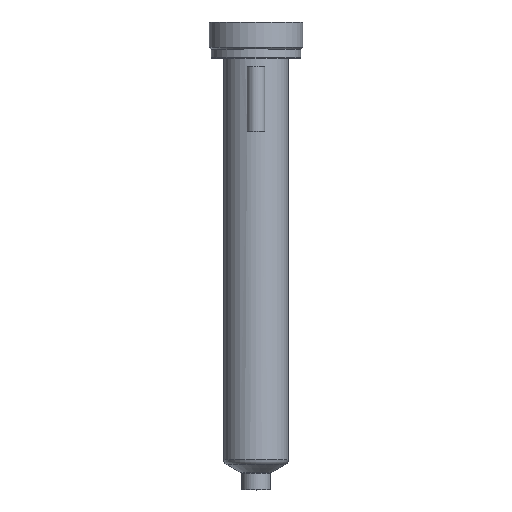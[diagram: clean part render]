
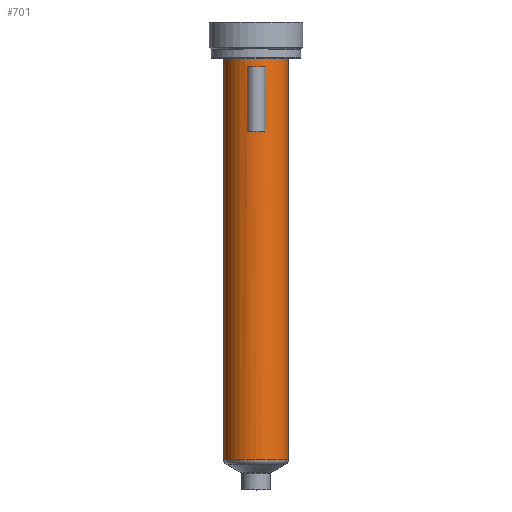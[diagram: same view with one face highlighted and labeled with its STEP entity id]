
A CAD part, top view. The second image highlights one B-rep face of the part: STEP entity #701.
In plain terms, the highlighted cylindrical face has radius 9 mm (diameter 18 mm), a partial arc.
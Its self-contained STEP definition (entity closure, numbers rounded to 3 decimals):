
#193=DIRECTION('',(0.,-1.,0.));
#194=VECTOR('',#193,111.544);
#195=CARTESIAN_POINT('',(9.,0.,0.));
#196=LINE('',#195,#194);
#197=CARTESIAN_POINT('',(0.,-111.544,0.));
#198=DIRECTION('',(0.,1.,0.));
#199=DIRECTION('',(-1.,0.,0.));
#200=AXIS2_PLACEMENT_3D('',#197,#198,#199);
#202=DIRECTION('',(0.,1.,0.));
#203=VECTOR('',#202,111.544);
#204=CARTESIAN_POINT('',(-9.,-111.544,0.));
#205=LINE('',#204,#203);
#206=CARTESIAN_POINT('',(0.,0.,0.));
#207=DIRECTION('',(0.,1.,0.));
#208=DIRECTION('',(-1.,0.,0.));
#209=AXIS2_PLACEMENT_3D('',#206,#207,#208);
#211=DIRECTION('',(0.,-1.,0.));
#212=VECTOR('',#211,18.);
#213=CARTESIAN_POINT('',(-2.5,-2.5,8.646));
#214=LINE('',#213,#212);
#215=DIRECTION('',(0.,1.,0.));
#216=VECTOR('',#215,18.);
#217=CARTESIAN_POINT('',(2.5,-20.5,8.646));
#218=LINE('',#217,#216);
#299=CARTESIAN_POINT('',(0.,-2.5,0.));
#300=DIRECTION('',(0.,-1.,0.));
#301=DIRECTION('',(0.278,0.,0.961));
#302=AXIS2_PLACEMENT_3D('',#299,#300,#301);
#317=CARTESIAN_POINT('',(0.,-20.5,0.));
#318=DIRECTION('',(0.,1.,0.));
#319=DIRECTION('',(-0.278,0.,0.961));
#320=AXIS2_PLACEMENT_3D('',#317,#318,#319);
#396=CARTESIAN_POINT('',(-9.,0.,0.));
#397=CARTESIAN_POINT('',(9.,0.,0.));
#398=VERTEX_POINT('',#396);
#399=VERTEX_POINT('',#397);
#408=CARTESIAN_POINT('',(-2.5,-2.5,8.646));
#409=VERTEX_POINT('',#408);
#410=CARTESIAN_POINT('',(2.5,-2.5,8.646));
#411=VERTEX_POINT('',#410);
#448=CARTESIAN_POINT('',(9.,-111.544,0.));
#449=VERTEX_POINT('',#448);
#458=CARTESIAN_POINT('',(-9.,-111.544,0.));
#459=VERTEX_POINT('',#458);
#460=CARTESIAN_POINT('',(-2.5,-20.5,8.646));
#461=CARTESIAN_POINT('',(2.5,-20.5,8.646));
#462=VERTEX_POINT('',#460);
#463=VERTEX_POINT('',#461);
#679=CARTESIAN_POINT('',(0.,11.15,0.));
#680=DIRECTION('',(0.,-1.,0.));
#681=DIRECTION('',(-1.,0.,0.));
#682=AXIS2_PLACEMENT_3D('',#679,#680,#681);
#683=CYLINDRICAL_SURFACE('',#682,9.);
#684=ORIENTED_EDGE('',*,*,#673,.T.);
#686=ORIENTED_EDGE('',*,*,#685,.F.);
#687=ORIENTED_EDGE('',*,*,#669,.T.);
#688=ORIENTED_EDGE('',*,*,#659,.T.);
#689=EDGE_LOOP('',(#684,#686,#687,#688));
#690=FACE_OUTER_BOUND('',#689,.F.);
#692=ORIENTED_EDGE('',*,*,#691,.T.);
#694=ORIENTED_EDGE('',*,*,#693,.T.);
#696=ORIENTED_EDGE('',*,*,#695,.T.);
#698=ORIENTED_EDGE('',*,*,#697,.T.);
#699=EDGE_LOOP('',(#692,#694,#696,#698));
#700=FACE_BOUND('',#699,.F.);
#701=ADVANCED_FACE('',(#690,#700),#683,.T.);
#201=CIRCLE('',#200,9.);
#210=CIRCLE('',#209,9.);
#303=CIRCLE('',#302,9.);
#321=CIRCLE('',#320,9.);
#659=EDGE_CURVE('',#398,#399,#210,.T.);
#669=EDGE_CURVE('',#459,#398,#205,.T.);
#673=EDGE_CURVE('',#399,#449,#196,.T.);
#685=EDGE_CURVE('',#459,#449,#201,.T.);
#691=EDGE_CURVE('',#409,#462,#214,.T.);
#693=EDGE_CURVE('',#462,#463,#321,.T.);
#695=EDGE_CURVE('',#463,#411,#218,.T.);
#697=EDGE_CURVE('',#411,#409,#303,.T.);
